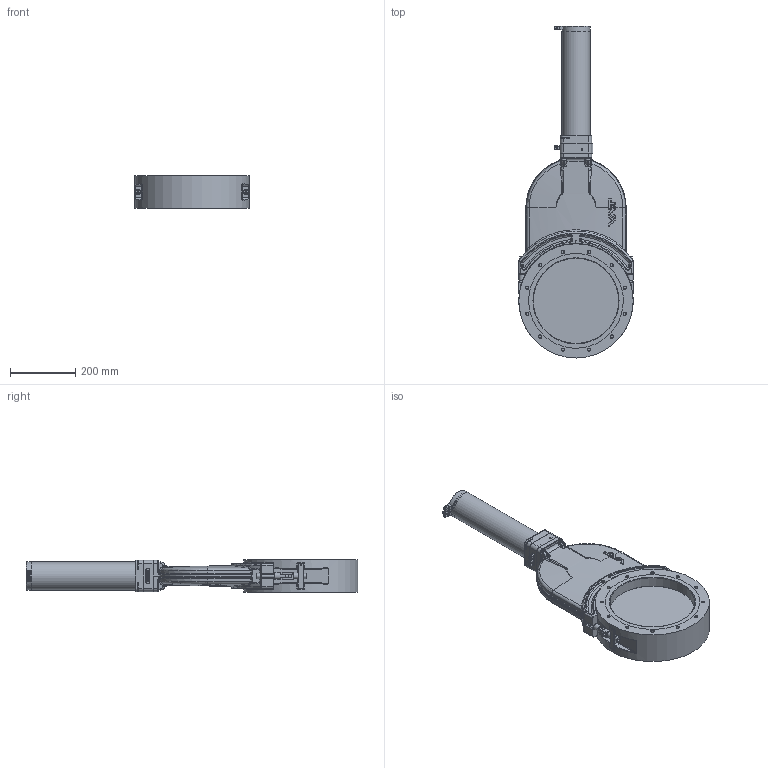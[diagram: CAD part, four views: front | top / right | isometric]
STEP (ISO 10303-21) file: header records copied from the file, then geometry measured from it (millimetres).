
FILE_DESCRIPTION(/* description */ (''),/* implementation_level */ '2;1');
FILE_NAME(/* name */ '1085457561_203.stp',/* time_stamp */ '2013-11-26T09:24:52+01:00',/* author */ (''),/* organization */ (''),/* preprocessor_version */ 'ST-DEVELOPER v11',/* originating_system */ 'SIEMENS PLM Software NX 7.5',/* authorisation */ '');
FILE_SCHEMA (('AP203_CONFIGURATION_CONTROLLED_3D_DESIGN_OF_MECHANICAL_PARTS_AND_ASSEMBLIES_MIM_LF'));
Products named in the file (30): N-8406-013_3.2; N-8406-013_2.1; 73662-01.1; 202839_1.2; N-6121-039.1; N-6099-417.1; 211062.11_24290ID; 77379-01.1; T-9001-055.1; N-6016-478.2; 211397.2; 211398.4; N-6121-026.2; 211950.1; 211375.3; 211142.11_19497ID; N-5019-823.1; 211790.10; 237905.1; 229422.2; 229421.3; 211376.4; 212199_1.2; N-6005-520.1; 263431.17_MODEL; N-8406-013_1_1.4_NX-ARRAGMNTZUSAMMENST1; 78856-R1.3; 78855-R1.9_NX-ARRAGMNTZUSAMMENST1; 211400.11_NX-ARRAGMNTGelenkauge gestreckt; 213539.21
Assembly tree (40 placements, depth 5):
  213539.21
    N-6005-520.1  x2
    212199_1.2  x2
    211376.4  x2
    229421.3
    229422.2
    237905.1
    211790.10
    N-5019-823.1  x4
    211400.11_NX-ARRAGMNTGelenkauge gestreckt  x2
      211375.3
      211950.1
      N-6121-026.2
      211398.4
      211397.2
    78855-R1.9_NX-ARRAGMNTZUSAMMENST1  x2
      N-6016-478.2
      T-9001-055.1
      78856-R1.3
        N-6099-417.1  x2
        N-6121-039.1
        202839_1.2
        73662-01.1
        N-8406-013_1_1.4_NX-ARRAGMNTZUSAMMENST1
          N-8406-013_2.1
          202839_1.2
          N-8406-013_3.2
      77379-01.1
    211142.11_19497ID
    263431.17_MODEL
      211062.11_24290ID
Bounding box: 352 x 1017.4 x 100 mm (x, y, z)
Volume: 8290321.1 mm3; surface area: 1230519.8 mm2
Topology: 50 solids, 50 shells, 2470 faces, 6025 edges, 3717 vertices
Faces by surface type: plane 972, cylinder 625, bspline 520, cone 190, torus 104, extrusion 31, sphere 26, revolution 2
Full cylindrical faces by diameter (mm): 1.4 x4, 1.5 x4, 2 x4, 2.115 x8, 2.3 x2, 2.5 x6, 3 x6, 3.2 x2, 3.5 x10, 4.1 x2, 4.2 x12, 4.3 x4, 5 x4, 5.4 x4, 5.5 x2, 6.475 x2, 6.8 x4, 7.008 x1, 7.018 x1, 7.92 x2, 8 x4, 8.008 x2, 8.2 x2, 8.5 x28, 8.6 x8, 9.964 x2, 10 x10, 10.011 x2, 10.018 x4, 10.045 x2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
Entity records: 74829 total; most frequent: CARTESIAN_POINT 26933, ORIENTED_EDGE 8648, DIRECTION 7820, EDGE_CURVE 4324, AXIS2_PLACEMENT_3D 3186, VERTEX_POINT 2811, EDGE_LOOP 2441, ADVANCED_FACE 1959
